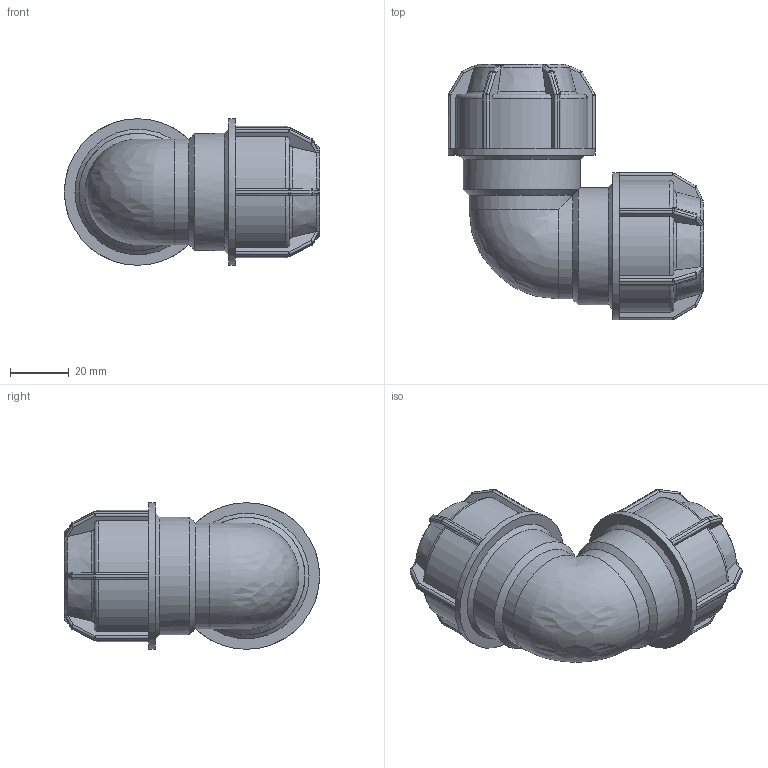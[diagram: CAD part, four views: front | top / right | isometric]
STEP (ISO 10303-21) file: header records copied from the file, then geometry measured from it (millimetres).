
FILE_DESCRIPTION(/* description */ ('PLASSON L.14 90° ELBOW (SILVER) 25-25'),/* implementation_level */ '2;1');
FILE_NAME(/* name */ 'C:\Dropbox\KIMPROJECTS-Inventor\99-16-3568-Processing\Silver+MF ISRAEL\140500\140500025.ipt.stp',/* time_stamp */ '2018-04-09T13:03:46+03:00',/* author */ ('KIM'),/* organization */ (''),/* preprocessor_version */ 'ST-DEVELOPER v15.6',/* originating_system */ 'Autodesk Inventor 2015',/* authorisation */ '');
FILE_SCHEMA (('AUTOMOTIVE_DESIGN { 1 0 10303 214 3 1 1 }'));
Length unit declared in the file: millimetre
Products named in the file (1): 140500025
Bounding box: 87 x 87 x 50 mm (x, y, z)
Volume: 97675.9 mm3; surface area: 29764.5 mm2
Topology: 1 solids, 1 shells, 409 faces, 980 edges, 560 vertices
Faces by surface type: plane 193, cylinder 120, sphere 48, torus 29, cone 18, bspline 1
Full cylindrical faces by diameter (mm): 22.5 x2, 25 x4, 40 x2, 50 x2
Entity records: 11854 total; most frequent: CARTESIAN_POINT 3054, DIRECTION 1854, ORIENTED_EDGE 1818, EDGE_CURVE 909, AXIS2_PLACEMENT_3D 747, VERTEX_POINT 532, EDGE_LOOP 431, FACE_OUTER_BOUND 404
